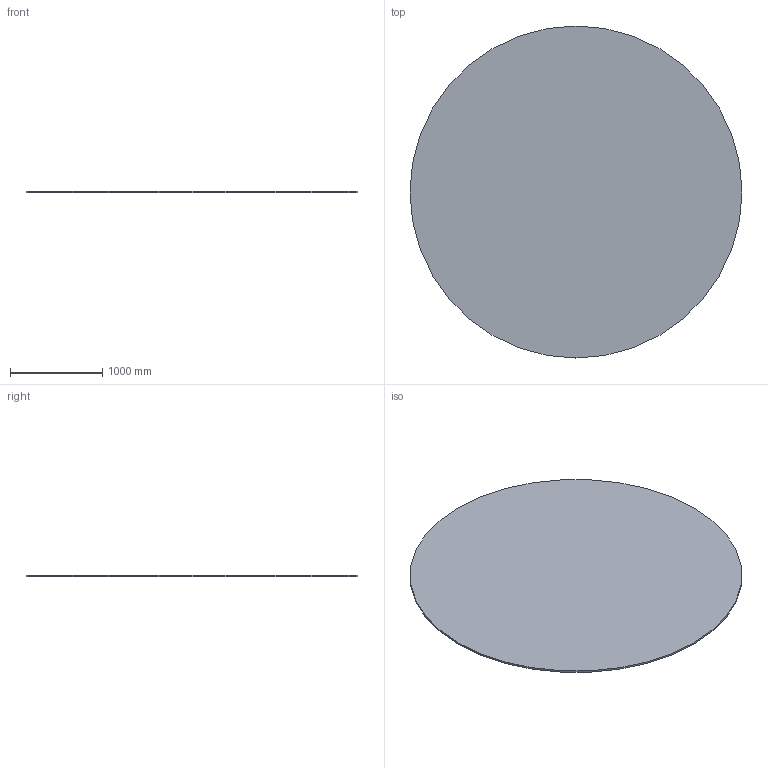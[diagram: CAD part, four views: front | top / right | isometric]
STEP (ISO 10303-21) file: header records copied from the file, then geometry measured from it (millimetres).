
FILE_DESCRIPTION(('step-conformance generated part'),'2;1');
FILE_NAME('sheet_disc.step','2026-10-12T00:00:00',(''),(''),'step-conformance generate','step-conformance generate','');
FILE_SCHEMA(('AUTOMOTIVE_DESIGN { 1 0 10303 214 1 1 1 1 }'));
Length unit declared in the file: millimetre
Products named in the file (1): sheet_disc
Bounding box: 3600 x 3600 x 19 mm (x, y, z)
Volume: 193396443.8 mm3; surface area: 20572405.3 mm2
Topology: 1 solids, 1 shells, 3 faces, 3 edges, 2 vertices
Faces by surface type: plane 2, cylinder 1
Full cylindrical faces by diameter (mm): 3600 x1
Entity records: 63 total; most frequent: DIRECTION 12, CARTESIAN_POINT 8, AXIS2_PLACEMENT_3D 6, ORIENTED_EDGE 4, EDGE_LOOP 4, FACE_OUTER_BOUND 3, ADVANCED_FACE 3, CIRCLE 2
